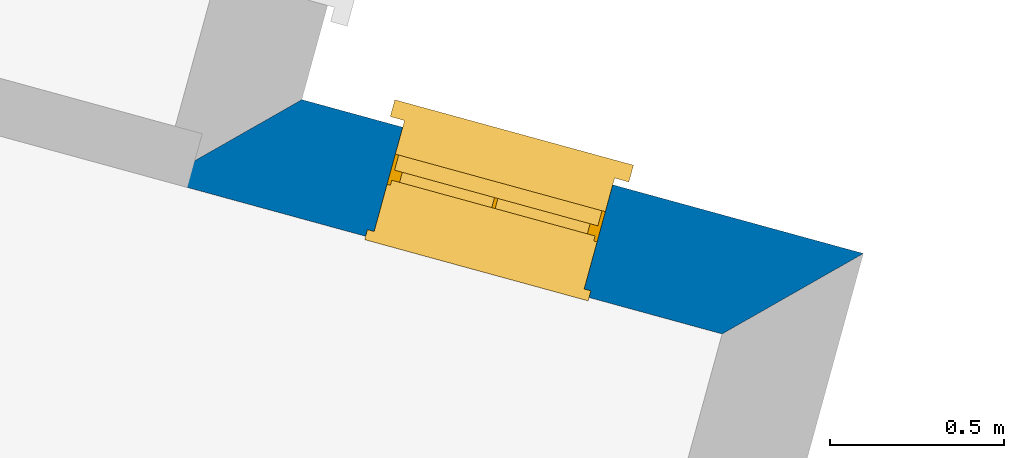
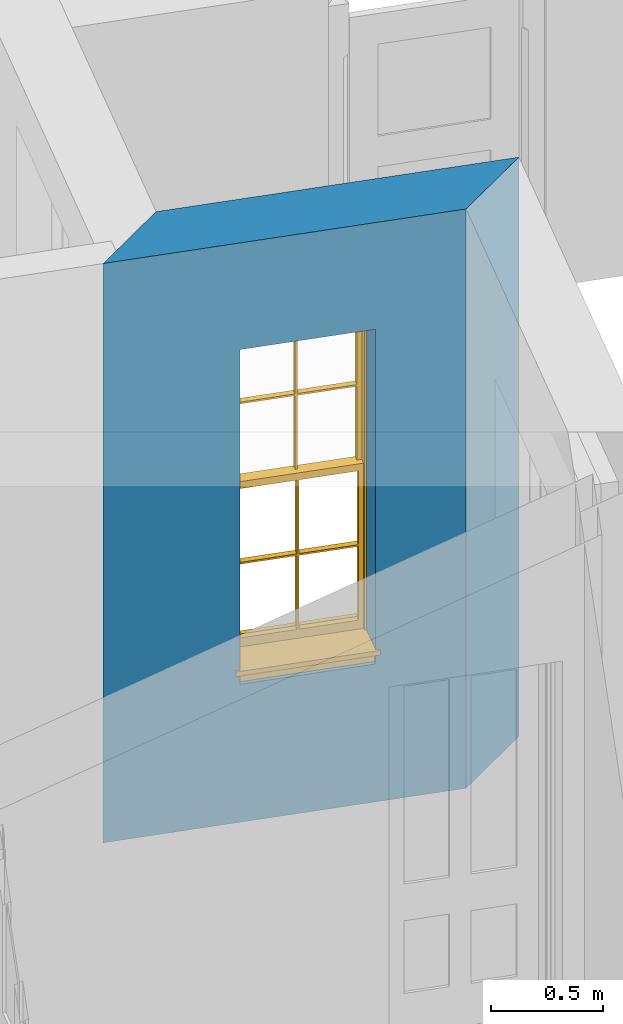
# One storey, part 5 of 8: 1 wall, 1 window, 1 opening.
"""IFC4 building model written with IfcOpenShell, lengths in metres."""

from ifc_helpers import new_model, si_unit, frame, origin, origin_with_axes, place, context, subcontext, project, spatial, polyline, outline, extrude, faceted_brep, source, transform, mapped, material, layer, layer_set, layer_usage, type_object, type_shapes, element, fill, save


model = new_model("IFC4")

# Units and contexts
model_context = context("Model", 3, world=origin_with_axes())
body_context = subcontext(model_context, "Body", "Model", "MODEL_VIEW")
ifc_project = project(units=[si_unit("PLANEANGLEUNIT", "RADIAN"), si_unit("MASSUNIT", "GRAM", prefix="KILO"), si_unit("FORCEUNIT", "NEWTON", prefix="KILO"), si_unit("LENGTHUNIT", "METRE"), si_unit("AREAUNIT", "SQUARE_METRE"), si_unit("VOLUMEUNIT", "CUBIC_METRE")], contexts=[model_context, model_context])

# Sites, building, storey
site_1_placement = place(None, origin_with_axes())
site_1 = spatial("IfcSite", under=ifc_project, at=site_1_placement, Name="Tamar")
site_2_placement = place(site_1_placement, origin_with_axes())
site_2 = spatial("IfcSite", under=site_1, at=site_2_placement, Name="Site plot-28", CompositionType="ELEMENT")
building_placement = place(None, origin_with_axes())
building = spatial("IfcBuilding", under=site_2, at=building_placement, Name="Building plot-28", CompositionType="ELEMENT")
storey_placement = place(None, frame((0.0, 0.0, 24.0), z_axis=(0.0, 0.0, 1.0), x_axis=(1.0, 0.0, 0.0)))
storey = spatial("IfcBuildingStorey", under=building, at=storey_placement, Name="plot-28 0", CompositionType="ELEMENT", Elevation=24.0)

# Wall, opening, window
ifc_material = material(Name="Masonry")
ifc_layer = layer(ifc_material, 0.33, ventilated=False)
ifc_layer_set = layer_set([ifc_layer], Name="exterior_0.08_0.25")
ifc_layer_usage = layer_usage(ifc_layer_set, "AXIS2", "POSITIVE", -0.25)
wall_type = type_object("IfcWallType", Name="exterior_0.08_0.25", PredefinedType="SOLIDWALL", material=ifc_layer_set)
wall_placement = place(storey_placement, frame((266.580114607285, 263.559173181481, 0.0), z_axis=(0.0, 0.0, 1.0), x_axis=(-0.964452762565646, 0.264255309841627, 0.0)))
wall = element("IfcWall", 1, at=wall_placement, inside=storey, type_object=wall_type, material=ifc_layer_usage, Name="exterior", context=body_context, shape_type="SweptSolid", body=[
    extrude(outline(polyline([(0.0799999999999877, 0.0800000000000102), (-0.24999999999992, -0.25000000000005), (1.42093948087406, -0.25000000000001), (1.75093948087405, 0.0799999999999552), (0.0799999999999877, 0.0800000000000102)])), origin_with_axes(), (0.0, 0.0, 1.0), 3.15),
])
opening_placement = place(wall_placement, frame((0.495939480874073, 0.0, 0.75)))
opening = element("IfcOpeningElement", 2, at=opening_placement, cuts=wall, Name="My Opening", ObjectType="Opening", context=body_context, shape_type="SweptSolid", body=[
    extrude(outline(polyline([(0.0, -0.270000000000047), (0.62499999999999, -0.270000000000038), (0.625000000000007, 1.10000000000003), (1.63202784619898e-14, 1.10000000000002), (0.0, -0.270000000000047)])), origin_with_axes(), (0.0, 0.0, 1.0), 1.82),
])
window_type = type_object("IfcWindowType", Name="sash_narrow", PartitioningType="DOUBLE_PANEL_HORIZONTAL", PredefinedType="NOTDEFINED")
shared_shape = source(origin(), body_context, "Body", "Brep", [
    faceted_brep([(0.033125, 0.145, 0.975209), (0.01, 0.145, 0.975209), (0.033125, 0.145, 1.376042), (0.591875, 0.145, 0.975209), (0.591875, 0.145, 1.376042), (0.615, 0.145, 0.975209), (0.591875, 0.145, 1.386042), (0.591875, 0.145, 1.786875), (0.615, 0.145, 1.81), (0.033125, 0.145, 1.786875), (0.033125, 0.145, 1.386042), (0.01, 0.145, 1.81), (0.591875, 0.115, 1.376042), (0.591875, 0.115, 0.975209), (0.615, 0.115, 0.937083), (0.033125, 0.115, 1.786875), (0.01, 0.115, 1.81), (0.033125, 0.115, 1.386042), (0.01, 0.115, 0.937083), (0.033125, 0.115, 0.975209), (0.033125, 0.115, 1.376042), (0.591875, 0.115, 1.786875), (0.591875, 0.115, 1.386042), (0.615, 0.115, 1.81), (0.033125, 0.145, 0.937083), (0.01, 0.145, 0.937083), (0.033125, 0.145, 0.53625), (0.591875, 0.145, 0.937083), (0.591875, 0.145, 0.53625), (0.615, 0.145, 0.937083), (0.591875, 0.145, 0.52625), (0.591875, 0.145, 0.125417), (0.615, 0.145, 0.077167), (0.033125, 0.145, 0.125417), (0.033125, 0.145, 0.52625), (0.01, 0.145, 0.077167), (-0.0425, 0.0, 0.01), (-0.0425, -0.05, 0.001667), (0.0, 0.0, 0.01), (0.6675, 0.0, 0.01), (0.625, 0.0, 0.01), (0.6675, -0.05, 0.001667), (-0.02, 0.33, 0.077167), (0.0, 0.33, 0.077167), (-0.02, 0.36, 0.077167), (0.0, 0.19, 0.077167), (0.01, 0.19, 0.077167), (0.625, 0.19, 0.077167), (0.625, 0.33, 0.077167), (0.615, 0.19, 0.077167), (0.645, 0.33, 0.077167), (0.645, 0.36, 0.077167), (0.01, 0.175, 0.975209), (0.615, 0.175, 0.975209), (0.591875, 0.175, 0.125417), (0.591875, 0.175, 0.52625), (0.615, 0.175, 0.077167), (0.591875, 0.175, 0.53625), (0.591875, 0.175, 0.937083), (0.033125, 0.175, 0.125417), (0.01, 0.175, 0.077167), (0.033125, 0.175, 0.52625), (0.033125, 0.175, 0.937083), (0.033125, 0.175, 0.53625), (-0.02, 0.33, 0.052167), (-0.02, 0.36, 0.052167), (0.645, 0.36, 0.052167), (0.645, 0.33, 0.052167), (0.625, 0.33, 0.052167), (0.0, 0.33, 0.052167), (0.625, 0.1, 0.026667), (0.0, 0.1, 0.026667), (-0.0425, -0.05, -0.123333), (0.6675, -0.05, -0.123333), (-0.0425, 0.0, -0.123333), (0.6675, 0.0, -0.123333), (0.01, 0.19, 1.81), (0.615, 0.19, 1.81), (0.0, 0.19, 1.82), (0.625, 0.19, 1.82), (0.01, 0.1, 0.077167), (0.615, 0.1, 0.077167), (0.3175, 0.175, 0.53625), (0.3175, 0.145, 0.53625), (0.3175, 0.175, 0.52625), (0.3175, 0.175, 0.125417), (0.3075, 0.175, 0.125417), (0.3075, 0.175, 0.52625), (0.3075, 0.175, 0.53625), (0.3175, 0.175, 0.937083), (0.3075, 0.175, 0.937083), (0.3075, 0.145, 0.52625), (0.3075, 0.145, 0.125417), (0.3175, 0.145, 0.125417), (0.3175, 0.145, 0.52625), (0.3075, 0.145, 0.53625), (0.3075, 0.145, 0.937083), (0.3175, 0.145, 0.937083), (0.3075, 0.115, 1.386042), (0.3075, 0.115, 1.376042), (0.3175, 0.115, 1.376042), (0.3075, 0.115, 0.975209), (0.3175, 0.115, 0.975209), (0.3175, 0.115, 1.786875), (0.3075, 0.115, 1.786875), (0.3175, 0.115, 1.386042), (0.3175, 0.145, 1.386042), (0.3175, 0.145, 1.376042), (0.3075, 0.145, 1.386042), (0.3075, 0.145, 1.786875), (0.3175, 0.145, 1.786875), (0.3075, 0.145, 1.376042), (0.3175, 0.145, 0.975209), (0.3075, 0.145, 0.975209), (0.625, 0.1, 1.82), (0.615, 0.1, 1.81), (0.01, 0.1, 1.81), (0.0, 0.1, 1.82), (0.625, 0.0, 0.0), (0.0, 0.0, 0.0), (0.625, 0.33, 0.0), (0.0, 0.33, 0.0)], [[[0, 1, 2]], [[3, 4, 5]], [[6, 7, 8]], [[9, 10, 11]], [[12, 13, 14]], [[15, 16, 17]], [[18, 19, 20]], [[21, 22, 23]], [[24, 25, 26]], [[27, 28, 29]], [[30, 31, 32]], [[33, 34, 35]], [[14, 27, 29]], [[25, 24, 18]], [[36, 37, 38]], [[39, 40, 41]], [[42, 43, 44]], [[45, 46, 43]], [[47, 48, 49]], [[50, 51, 48]], [[1, 0, 52]], [[5, 53, 3]], [[54, 55, 56]], [[57, 58, 53]], [[59, 60, 61]], [[62, 63, 52]], [[48, 43, 46, 49]], [[51, 44, 43, 48]], [[64, 42, 44, 65]], [[65, 44, 51, 66]], [[66, 51, 50, 67]], [[65, 66, 68, 69]], [[60, 56, 49, 46]], [[70, 71, 38, 40]], [[37, 41, 40, 38]], [[37, 72, 73, 41]], [[74, 75, 73, 72]], [[8, 11, 76, 77]], [[76, 78, 79, 77]], [[32, 35, 80, 81]], [[81, 80, 71, 70]], [[28, 57, 82, 83]], [[84, 85, 86, 87]], [[88, 87, 61, 63]], [[89, 82, 88, 90]], [[84, 82, 57, 55]], [[91, 87, 86, 92]], [[34, 61, 87, 91]], [[93, 85, 84, 94]], [[95, 88, 63, 26]], [[96, 90, 88, 95]], [[83, 82, 89, 97]], [[94, 84, 55, 30]], [[94, 30, 28, 83]], [[94, 91, 92, 93]], [[95, 26, 34, 91]], [[97, 96, 95, 83]], [[98, 17, 20, 99]], [[100, 99, 101, 102]], [[103, 104, 98, 105]], [[100, 12, 22, 105]], [[106, 6, 4, 107]], [[106, 108, 109, 110]], [[111, 2, 10, 108]], [[112, 113, 111, 107]], [[99, 111, 113, 101]], [[20, 2, 111, 99]], [[102, 112, 107, 100]], [[98, 108, 10, 17]], [[104, 109, 108, 98]], [[105, 106, 110, 103]], [[22, 6, 106, 105]], [[100, 107, 4, 12]], [[82, 84, 87, 88]], [[83, 95, 91, 94]], [[99, 100, 105, 98]], [[107, 111, 108, 106]], [[92, 86, 59, 33]], [[15, 9, 109, 104]], [[103, 110, 7, 21]], [[31, 54, 85, 93]], [[36, 74, 72, 37]], [[39, 41, 73, 75]], [[18, 14, 102, 101]], [[23, 16, 104, 103]], [[85, 56, 60, 86]], [[52, 53, 89, 90]], [[53, 52, 113, 112]], [[11, 8, 110, 109]], [[14, 18, 96, 97]], [[2, 1, 11, 10]], [[8, 5, 4, 6]], [[57, 53, 56, 55]], [[60, 52, 63, 61]], [[26, 25, 35, 34]], [[32, 29, 28, 30]], [[14, 23, 22, 12]], [[18, 20, 17, 16]], [[19, 0, 2, 20]], [[17, 10, 9, 15]], [[12, 4, 3, 13]], [[21, 7, 6, 22]], [[27, 58, 57, 28]], [[30, 55, 54, 31]], [[33, 59, 61, 34]], [[26, 63, 62, 24]], [[5, 8, 77, 53]], [[76, 11, 1, 52]], [[46, 45, 78, 76]], [[49, 77, 79, 47]], [[70, 114, 115, 81]], [[71, 80, 116, 117]], [[19, 101, 113, 0]], [[102, 13, 3, 112]], [[90, 96, 24, 62]], [[29, 32, 81, 14]], [[80, 35, 25, 18]], [[60, 46, 76, 52]], [[77, 49, 56, 53]], [[23, 14, 81, 115]], [[16, 116, 80, 18]], [[92, 33, 35]], [[32, 31, 93]], [[32, 93, 92, 35]], [[14, 13, 102]], [[101, 19, 18]], [[103, 21, 23]], [[16, 15, 104]], [[109, 9, 11]], [[8, 7, 110]], [[23, 115, 116, 16]], [[114, 117, 116, 115]], [[90, 62, 52]], [[58, 89, 53]], [[27, 97, 89, 58]], [[85, 54, 56]], [[60, 59, 86]], [[97, 27, 14]], [[18, 24, 96]], [[52, 0, 113]], [[112, 3, 53]], [[79, 78, 117, 114]], [[78, 45, 71, 117]], [[114, 70, 47, 79]], [[118, 75, 74, 119]], [[68, 66, 67]], [[48, 68, 67, 50]], [[69, 64, 65]], [[42, 64, 69, 43]], [[69, 68, 120, 121]], [[70, 68, 48, 47]], [[118, 120, 68, 70]], [[43, 69, 71, 45]], [[69, 121, 119, 71]], [[120, 118, 119, 121]], [[38, 119, 74, 36]], [[71, 119, 38]], [[39, 75, 118, 40]], [[40, 118, 70]]]),
])
type_shapes(window_type, [shared_shape])
window_placement = place(storey_placement, frame((266.173153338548, 263.950630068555, 0.75), z_axis=(0.0, 0.0, 1.0), x_axis=(-0.602782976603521, 0.165159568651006, 0.0)))
window = element("IfcWindow", 3, at=window_placement, inside=storey, type_object=window_type, Name="toilet outside window", OverallHeight=1.82, OverallWidth=0.625, context=body_context, shape_type="MappedRepresentation", body=[
    mapped(shared_shape, transform((0.0, 0.0, 0.0), scale=1.0)),
])
fill(opening, window)

save(model, "model.ifc")
